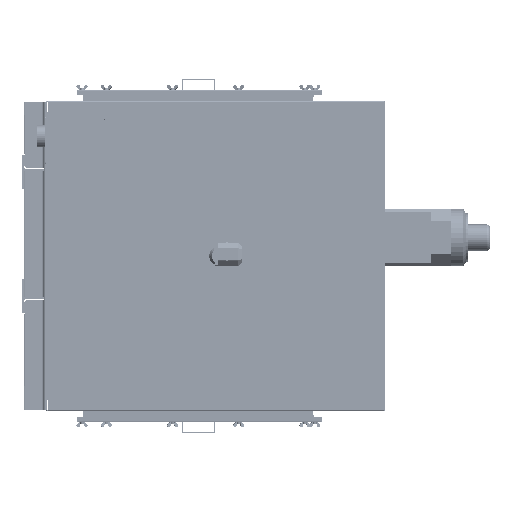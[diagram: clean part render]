
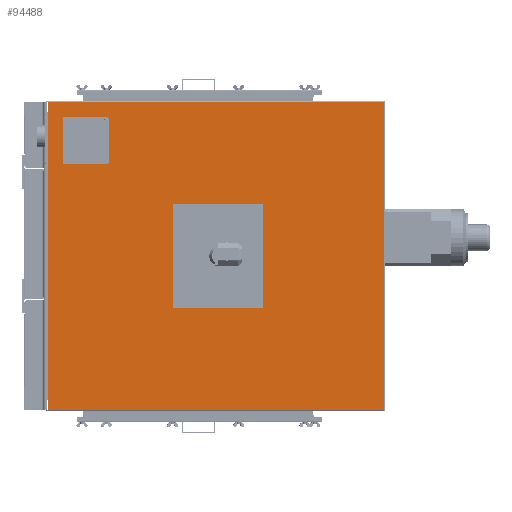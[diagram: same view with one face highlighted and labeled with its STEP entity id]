
A CAD part, left-side view. The second image highlights one B-rep face of the part: STEP entity #94488.
In plain terms, the highlighted planar face has unit normal (-1, 0, 0).
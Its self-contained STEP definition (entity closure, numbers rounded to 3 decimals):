
#4113=PLANE('',#100442);
#7225=LINE('',#137184,#14283);
#7228=LINE('',#137192,#14286);
#7233=LINE('',#137203,#14291);
#7234=LINE('',#137207,#14292);
#7235=LINE('',#137211,#14293);
#7236=LINE('',#137213,#14294);
#7237=LINE('',#137215,#14295);
#7238=LINE('',#137216,#14296);
#7239=LINE('',#137219,#14297);
#7240=LINE('',#137221,#14298);
#7241=LINE('',#137223,#14299);
#7242=LINE('',#137224,#14300);
#14283=VECTOR('',#111359,200.);
#14286=VECTOR('',#111368,200.);
#14291=VECTOR('',#111379,200.);
#14292=VECTOR('',#111386,200.);
#14293=VECTOR('',#111389,1524.);
#14294=VECTOR('',#111390,1398.);
#14295=VECTOR('',#111391,1524.);
#14296=VECTOR('',#111392,1398.);
#14297=VECTOR('',#111393,402.);
#14298=VECTOR('',#111394,472.);
#14299=VECTOR('',#111395,402.);
#14300=VECTOR('',#111396,472.);
#20689=FACE_BOUND('',#28261,.T.);
#20690=FACE_BOUND('',#28262,.T.);
#22594=FACE_OUTER_BOUND('',#28260,.T.);
#28260=EDGE_LOOP('',(#63155,#63156,#63157,#63158));
#28261=EDGE_LOOP('',(#63159,#63160,#63161,#63162,#63163,#63164,#63165,#63166));
#28262=EDGE_LOOP('',(#63167,#63168,#63169,#63170));
#34951=CIRCLE('',#100431,5.);
#34952=CIRCLE('',#100434,5.);
#34953=CIRCLE('',#100437,5.);
#34954=CIRCLE('',#100440,5.);
#39339=VERTEX_POINT('',#137177);
#39340=VERTEX_POINT('',#137178);
#39341=VERTEX_POINT('',#137183);
#39342=VERTEX_POINT('',#137187);
#39343=VERTEX_POINT('',#137191);
#39344=VERTEX_POINT('',#137195);
#39345=VERTEX_POINT('',#137196);
#39346=VERTEX_POINT('',#137201);
#39347=VERTEX_POINT('',#137209);
#39348=VERTEX_POINT('',#137210);
#39349=VERTEX_POINT('',#137212);
#39350=VERTEX_POINT('',#137214);
#39351=VERTEX_POINT('',#137217);
#39352=VERTEX_POINT('',#137218);
#39353=VERTEX_POINT('',#137220);
#39354=VERTEX_POINT('',#137222);
#48590=EDGE_CURVE('',#39339,#39340,#34951,.T.);
#48593=EDGE_CURVE('',#39341,#39339,#7225,.T.);
#48595=EDGE_CURVE('',#39342,#39341,#34952,.T.);
#48597=EDGE_CURVE('',#39343,#39342,#7228,.T.);
#48599=EDGE_CURVE('',#39344,#39345,#34953,.T.);
#48603=EDGE_CURVE('',#39345,#39346,#7233,.T.);
#48604=EDGE_CURVE('',#39346,#39343,#34954,.T.);
#48605=EDGE_CURVE('',#39340,#39344,#7234,.T.);
#48606=EDGE_CURVE('',#39347,#39348,#7235,.T.);
#48607=EDGE_CURVE('',#39348,#39349,#7236,.T.);
#48608=EDGE_CURVE('',#39349,#39350,#7237,.T.);
#48609=EDGE_CURVE('',#39350,#39347,#7238,.T.);
#48610=EDGE_CURVE('',#39351,#39352,#7239,.T.);
#48611=EDGE_CURVE('',#39352,#39353,#7240,.T.);
#48612=EDGE_CURVE('',#39353,#39354,#7241,.T.);
#48613=EDGE_CURVE('',#39354,#39351,#7242,.T.);
#63155=ORIENTED_EDGE('',*,*,#48606,.T.);
#63156=ORIENTED_EDGE('',*,*,#48607,.T.);
#63157=ORIENTED_EDGE('',*,*,#48608,.T.);
#63158=ORIENTED_EDGE('',*,*,#48609,.T.);
#63159=ORIENTED_EDGE('',*,*,#48599,.T.);
#63160=ORIENTED_EDGE('',*,*,#48603,.T.);
#63161=ORIENTED_EDGE('',*,*,#48604,.T.);
#63162=ORIENTED_EDGE('',*,*,#48597,.T.);
#63163=ORIENTED_EDGE('',*,*,#48595,.T.);
#63164=ORIENTED_EDGE('',*,*,#48593,.T.);
#63165=ORIENTED_EDGE('',*,*,#48590,.T.);
#63166=ORIENTED_EDGE('',*,*,#48605,.T.);
#63167=ORIENTED_EDGE('',*,*,#48610,.T.);
#63168=ORIENTED_EDGE('',*,*,#48611,.T.);
#63169=ORIENTED_EDGE('',*,*,#48612,.T.);
#63170=ORIENTED_EDGE('',*,*,#48613,.T.);
#94488=ADVANCED_FACE('',(#22594,#20689,#20690),#4113,.F.);
#100431=AXIS2_PLACEMENT_3D('',#137179,#111353,#111354);
#100434=AXIS2_PLACEMENT_3D('',#137188,#111363,#111364);
#100437=AXIS2_PLACEMENT_3D('',#137197,#111372,#111373);
#100440=AXIS2_PLACEMENT_3D('',#137205,#111382,#111383);
#100442=AXIS2_PLACEMENT_3D('',#137208,#111387,#111388);
#111353=DIRECTION('center_axis',(1.,0.,0.));
#111354=DIRECTION('ref_axis',(0.,0.707,-0.707));
#111359=DIRECTION('',(0.,1.,0.));
#111363=DIRECTION('center_axis',(1.,0.,0.));
#111364=DIRECTION('ref_axis',(0.,-0.707,
-0.707));
#111368=DIRECTION('',(0.,0.,-1.));
#111372=DIRECTION('center_axis',(1.,0.,0.));
#111373=DIRECTION('ref_axis',(0.,0.707,0.707));
#111379=DIRECTION('',(0.,-1.,0.));
#111382=DIRECTION('center_axis',(1.,0.,0.));
#111383=DIRECTION('ref_axis',(0.,-0.707,
0.707));
#111386=DIRECTION('',(0.,0.,1.));
#111387=DIRECTION('center_axis',(1.,0.,0.));
#111388=DIRECTION('ref_axis',(0.,1.,0.));
#111389=DIRECTION('',(0.,1.,0.));
#111390=DIRECTION('',(0.,0.,-1.));
#111391=DIRECTION('',(0.,-1.,0.));
#111392=DIRECTION('',(0.,0.,1.));
#111393=DIRECTION('',(0.,1.,0.));
#111394=DIRECTION('',(0.,0.,1.));
#111395=DIRECTION('',(0.,-1.,0.));
#111396=DIRECTION('',(0.,0.,-1.));
#137177=CARTESIAN_POINT('',(-1943.466,490.525,843.813));
#137178=CARTESIAN_POINT('',(-1943.466,495.525,848.813));
#137179=CARTESIAN_POINT('Origin',(-1943.466,490.525,848.813));
#137183=CARTESIAN_POINT('',(-1943.466,290.525,843.813));
#137184=CARTESIAN_POINT('',(-1943.466,148.425,843.813));
#137187=CARTESIAN_POINT('',(-1943.466,285.525,848.813));
#137188=CARTESIAN_POINT('Origin',(-1943.466,290.525,848.813));
#137191=CARTESIAN_POINT('',(-1943.466,285.525,1048.813));
#137192=CARTESIAN_POINT('',(-1943.466,285.525,634.213));
#137195=CARTESIAN_POINT('',(-1943.466,495.525,1048.813));
#137196=CARTESIAN_POINT('',(-1943.466,490.525,1053.813));
#137197=CARTESIAN_POINT('Origin',(-1943.466,490.525,1048.813));
#137201=CARTESIAN_POINT('',(-1943.466,290.525,1053.813));
#137203=CARTESIAN_POINT('',(-1943.466,43.425,1053.813));
#137205=CARTESIAN_POINT('Origin',(-1943.466,290.525,1048.813));
#137207=CARTESIAN_POINT('',(-1943.466,495.525,739.213));
#137208=CARTESIAN_POINT('Origin',(-1943.466,-198.675,424.613));
#137209=CARTESIAN_POINT('',(-1943.466,-960.675,1123.613));
#137210=CARTESIAN_POINT('',(-1943.466,563.325,1123.613));
#137211=CARTESIAN_POINT('',(-1943.466,-579.675,1123.613));
#137212=CARTESIAN_POINT('',(-1943.466,563.325,-274.387));
#137213=CARTESIAN_POINT('',(-1943.466,563.325,1125.613));
#137214=CARTESIAN_POINT('',(-1943.466,-960.675,-274.387));
#137215=CARTESIAN_POINT('',(-1943.466,182.325,-274.387));
#137216=CARTESIAN_POINT('',(-1943.466,-960.675,-276.387));
#137217=CARTESIAN_POINT('',(-1943.466,-410.675,188.613));
#137218=CARTESIAN_POINT('',(-1943.466,-8.675,188.613));
#137219=CARTESIAN_POINT('',(-1943.466,-103.675,188.613));
#137220=CARTESIAN_POINT('',(-1943.466,-8.675,660.613));
#137221=CARTESIAN_POINT('',(-1943.466,-8.675,542.613));
#137222=CARTESIAN_POINT('',(-1943.466,-410.675,660.613));
#137223=CARTESIAN_POINT('',(-1943.466,-304.675,660.613));
#137224=CARTESIAN_POINT('',(-1943.466,-410.675,306.613));
